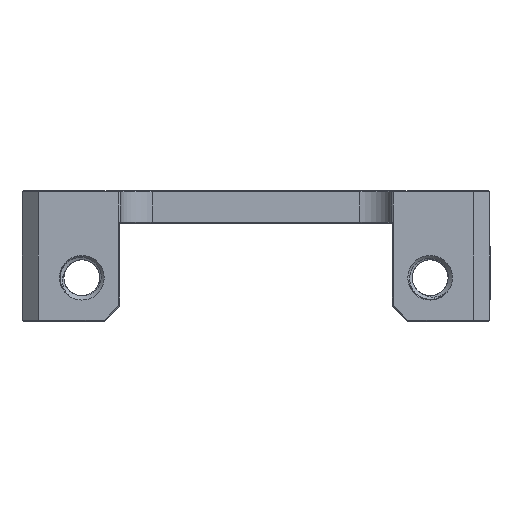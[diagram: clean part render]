
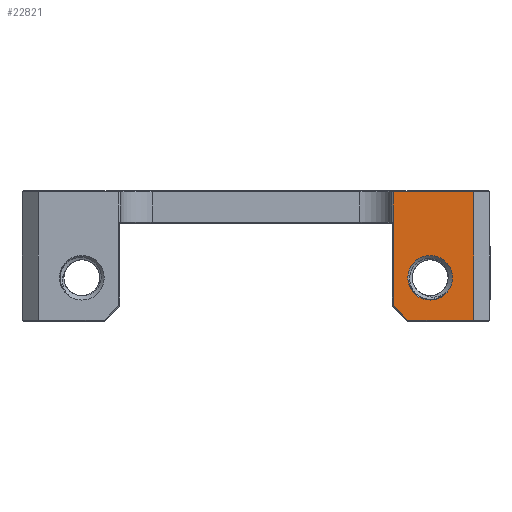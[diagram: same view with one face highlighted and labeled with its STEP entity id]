
A CAD part, left-side view. The second image highlights one B-rep face of the part: STEP entity #22821.
In plain terms, the highlighted planar face has unit normal (-1, 0, 0).
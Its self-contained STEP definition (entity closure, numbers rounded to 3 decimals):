
#353=FACE_BOUND('',#3759,.T.);
#562=PLANE('',#24492);
#2446=FACE_OUTER_BOUND('',#3758,.T.);
#3758=EDGE_LOOP('',(#17597,#17598,#17599,#17600,#17601,#17602));
#3759=EDGE_LOOP('',(#17603));
#7008=LINE('',#42125,#7988);
#7010=LINE('',#42129,#7990);
#7012=LINE('',#42136,#7992);
#7013=LINE('',#42138,#7993);
#7014=LINE('',#42140,#7994);
#7015=LINE('',#42141,#7995);
#7988=VECTOR('',#27690,10.);
#7990=VECTOR('',#27694,10.);
#7992=VECTOR('',#27698,10.);
#7993=VECTOR('',#27699,10.);
#7994=VECTOR('',#27700,10.);
#7995=VECTOR('',#27701,10.);
#8504=CIRCLE('',#24493,2.05);
#9949=VERTEX_POINT('',#42120);
#9950=VERTEX_POINT('',#42124);
#9951=VERTEX_POINT('',#42128);
#9952=VERTEX_POINT('',#42135);
#9953=VERTEX_POINT('',#42137);
#9954=VERTEX_POINT('',#42139);
#9955=VERTEX_POINT('',#42142);
#12874=EDGE_CURVE('',#9949,#9950,#7008,.T.);
#12876=EDGE_CURVE('',#9950,#9951,#7010,.T.);
#12879=EDGE_CURVE('',#9952,#9949,#7012,.T.);
#12880=EDGE_CURVE('',#9953,#9952,#7013,.T.);
#12881=EDGE_CURVE('',#9954,#9953,#7014,.T.);
#12882=EDGE_CURVE('',#9951,#9954,#7015,.T.);
#12883=EDGE_CURVE('',#9955,#9955,#8504,.T.);
#17597=ORIENTED_EDGE('',*,*,#12874,.F.);
#17598=ORIENTED_EDGE('',*,*,#12879,.F.);
#17599=ORIENTED_EDGE('',*,*,#12880,.F.);
#17600=ORIENTED_EDGE('',*,*,#12881,.F.);
#17601=ORIENTED_EDGE('',*,*,#12882,.F.);
#17602=ORIENTED_EDGE('',*,*,#12876,.F.);
#17603=ORIENTED_EDGE('',*,*,#12883,.T.);
#22821=ADVANCED_FACE('',(#2446,#353),#562,.T.);
#24492=AXIS2_PLACEMENT_3D('',#42134,#27696,#27697);
#24493=AXIS2_PLACEMENT_3D('',#42143,#27702,#27703);
#27690=DIRECTION('',(0.,0.,1.));
#27694=DIRECTION('',(0.,-1.,0.));
#27696=DIRECTION('center_axis',(-1.,0.,0.));
#27697=DIRECTION('ref_axis',(0.,1.,0.));
#27698=DIRECTION('',(0.,0.,1.));
#27699=DIRECTION('',(0.,0.707,0.707));
#27700=DIRECTION('',(0.,1.,0.));
#27701=DIRECTION('',(0.,0.,-1.));
#27702=DIRECTION('center_axis',(1.,0.,0.));
#27703=DIRECTION('ref_axis',(0.,1.,0.));
#42120=CARTESIAN_POINT('',(-21.5,-12.6,-2.999));
#42124=CARTESIAN_POINT('',(-21.5,-12.6,-0.1));
#42125=CARTESIAN_POINT('',(-21.5,-12.6,0.));
#42128=CARTESIAN_POINT('',(-21.5,-20.,-0.1));
#42129=CARTESIAN_POINT('',(-21.5,-10.,-0.1));
#42134=CARTESIAN_POINT('Origin',(-21.5,-20.,0.));
#42135=CARTESIAN_POINT('',(-21.5,-12.6,-10.559));
#42136=CARTESIAN_POINT('',(-21.5,-12.6,0.));
#42137=CARTESIAN_POINT('',(-21.5,-13.941,-11.9));
#42138=CARTESIAN_POINT('',(-21.5,-12.146,-10.104));
#42139=CARTESIAN_POINT('',(-21.5,-20.,-11.9));
#42140=CARTESIAN_POINT('',(-21.5,-10.,-11.9));
#42141=CARTESIAN_POINT('',(-21.5,-20.,0.));
#42142=CARTESIAN_POINT('',(-21.5,-18.05,-8.));
#42143=CARTESIAN_POINT('Origin',(-21.5,-16.,-8.));
